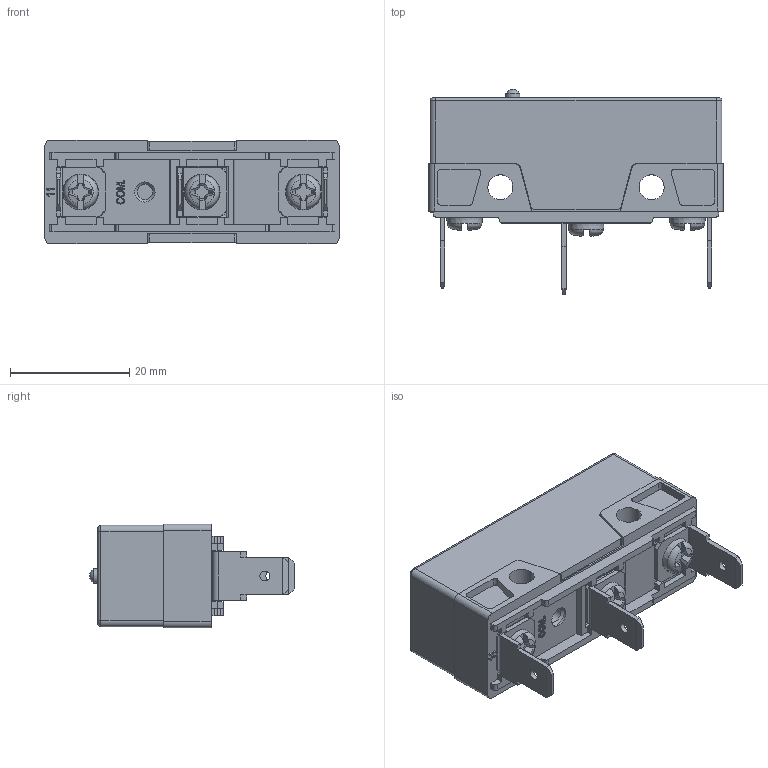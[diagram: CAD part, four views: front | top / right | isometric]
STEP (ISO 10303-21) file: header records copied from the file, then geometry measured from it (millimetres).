
FILE_DESCRIPTION(('Microrutor Basico Pino Terminal Faston'),'2;1');
FILE_NAME('E:\WorkFolder\Bibl\3DWeb\Serie\M3\kp_m3_m3af_step.stp','2011-01-21T13:36:50',('DIE'),('KAP'),'Autodesk Inventor 2011','Autodesk Inventor 2011','Direitos reservados. Proibido reproducao, cedencia ou revelacao de conteudo a terceiros, salvo com autorizacao.');
FILE_SCHEMA(('AUTOMOTIVE_DESIGN { 1 0 10303 214 1 1 1 1 }'));
Length unit declared in the file: millimetre
Products named in the file (1): Part28
Bounding box: 49.4 x 34.43 x 17.4 mm (x, y, z)
Volume: 15942.8 mm3; surface area: 6164.7 mm2
Topology: 1 solids, 2 shells, 545 faces, 1488 edges, 979 vertices
Faces by surface type: plane 412, cylinder 75, bspline 28, cone 16, sphere 7, torus 7
Full cylindrical faces by diameter (mm): 1.65 x3, 2.4 x1, 2.6 x1, 3 x1, 3.4 x1, 3.7 x1, 4.2 x2, 4.8 x1
Entity records: 17722 total; most frequent: CARTESIAN_POINT 3512, ORIENTED_EDGE 2920, DIRECTION 2653, EDGE_CURVE 1460, VECTOR 1135, LINE 1135, VERTEX_POINT 967, AXIS2_PLACEMENT_3D 759
